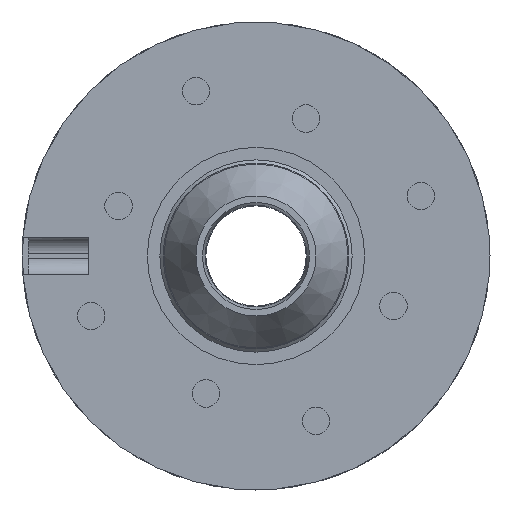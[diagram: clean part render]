
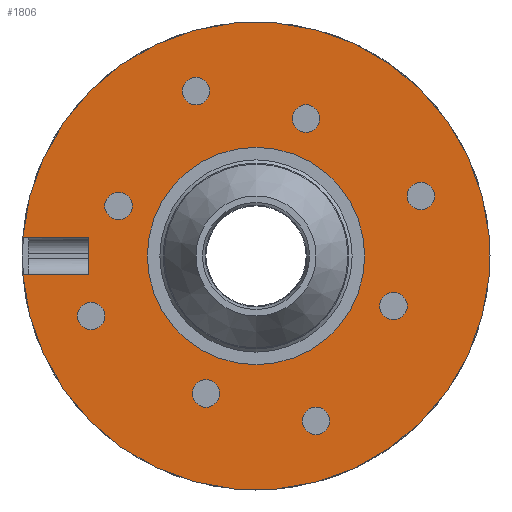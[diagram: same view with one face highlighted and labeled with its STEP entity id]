
A CAD part, left-side view. The second image highlights one B-rep face of the part: STEP entity #1806.
In plain terms, the highlighted planar face has unit normal (-1, 0, 0).
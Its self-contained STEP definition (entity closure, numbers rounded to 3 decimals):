
#69 = DIRECTION ( 'NONE',  ( 0., 0., 1. ) ) ;
#88 = LINE ( 'NONE', #1558, #1643 ) ;
#97 = AXIS2_PLACEMENT_3D ( 'NONE', #1105, #198, #214 ) ;
#102 = CARTESIAN_POINT ( 'NONE',  ( 0., 16.445, 7.635 ) ) ;
#106 = AXIS2_PLACEMENT_3D ( 'NONE', #1991, #1051, #1044 ) ;
#115 = CARTESIAN_POINT ( 'NONE',  ( 0., 20., 2.25 ) ) ;
#124 = EDGE_CURVE ( 'NONE', #1500, #1500, #148, .T. ) ;
#132 = ORIENTED_EDGE ( 'NONE', *, *, #1642, .F. ) ;
#133 = CARTESIAN_POINT ( 'NONE',  ( 0., -5.985, 16.445 ) ) ;
#141 = CARTESIAN_POINT ( 'NONE',  ( 0., 27.909, -2.25 ) ) ;
#148 = CIRCLE ( 'NONE', #231, 1.65 ) ;
#158 = FACE_OUTER_BOUND ( 'NONE', #1010, .T. ) ;
#189 = FACE_BOUND ( 'NONE', #1011, .T. ) ;
#195 = DIRECTION ( 'NONE',  ( 0., 0., 1. ) ) ;
#198 = DIRECTION ( 'NONE',  ( -1., 0., 0. ) ) ;
#214 = DIRECTION ( 'NONE',  ( 0., 0., 1. ) ) ;
#215 = VERTEX_POINT ( 'NONE', #102 ) ;
#216 = DIRECTION ( 'NONE',  ( -1., 0., 0. ) ) ;
#231 = AXIS2_PLACEMENT_3D ( 'NONE', #529, #216, #69 ) ;
#236 = EDGE_LOOP ( 'NONE', ( #652 ) ) ;
#249 = CARTESIAN_POINT ( 'NONE',  ( 0., -19.734, 8.832 ) ) ;
#260 = EDGE_LOOP ( 'NONE', ( #1816 ) ) ;
#295 = DIRECTION ( 'NONE',  ( -1., 0., 0. ) ) ;
#304 = CIRCLE ( 'NONE', #875, 28. ) ;
#312 = FACE_BOUND ( 'NONE', #1969, .T. ) ;
#333 = FACE_BOUND ( 'NONE', #1453, .T. ) ;
#362 = EDGE_CURVE ( 'NONE', #1677, #1677, #1404, .T. ) ;
#399 = ORIENTED_EDGE ( 'NONE', *, *, #1043, .F. ) ;
#403 = EDGE_CURVE ( 'NONE', #618, #618, #1239, .T. ) ;
#415 = EDGE_CURVE ( 'NONE', #1377, #749, #304, .T. ) ;
#422 = DIRECTION ( 'NONE',  ( -1., 0., 0. ) ) ;
#439 = EDGE_CURVE ( 'NONE', #468, #1200, #88, .T. ) ;
#451 = DIRECTION ( 'NONE',  ( 0., 0., 1. ) ) ;
#468 = VERTEX_POINT ( 'NONE', #794 ) ;
#470 = AXIS2_PLACEMENT_3D ( 'NONE', #499, #1378, #1093 ) ;
#499 = CARTESIAN_POINT ( 'NONE',  ( 0., 7.182, 19.734 ) ) ;
#508 = DIRECTION ( 'NONE',  ( -1., 0., 0. ) ) ;
#529 = CARTESIAN_POINT ( 'NONE',  ( 0., 5.985, -16.445 ) ) ;
#551 = DIRECTION ( 'NONE',  ( 0., 1., 0. ) ) ;
#578 = EDGE_CURVE ( 'NONE', #215, #215, #1203, .T. ) ;
#590 = AXIS2_PLACEMENT_3D ( 'NONE', #1427, #1771, #1588 ) ;
#591 = EDGE_LOOP ( 'NONE', ( #1590 ) ) ;
#603 = DIRECTION ( 'NONE',  ( 0., 0., 1. ) ) ;
#618 = VERTEX_POINT ( 'NONE', #846 ) ;
#650 = CIRCLE ( 'NONE', #106, 1.65 ) ;
#652 = ORIENTED_EDGE ( 'NONE', *, *, #124, .F. ) ;
#653 = CARTESIAN_POINT ( 'NONE',  ( 0., 0., 0. ) ) ;
#660 = CARTESIAN_POINT ( 'NONE',  ( 0., 16.445, 5.985 ) ) ;
#668 = CARTESIAN_POINT ( 'NONE',  ( 0., 27.909, 2.25 ) ) ;
#699 = CARTESIAN_POINT ( 'NONE',  ( 0., -7.182, -18.084 ) ) ;
#749 = VERTEX_POINT ( 'NONE', #668 ) ;
#768 = ORIENTED_EDGE ( 'NONE', *, *, #1552, .F. ) ;
#794 = CARTESIAN_POINT ( 'NONE',  ( 0., 20., -2.25 ) ) ;
#845 = ORIENTED_EDGE ( 'NONE', *, *, #362, .F. ) ;
#846 = CARTESIAN_POINT ( 'NONE',  ( 0., 7.182, 21.384 ) ) ;
#849 = EDGE_CURVE ( 'NONE', #1057, #1057, #999, .T. ) ;
#863 = ORIENTED_EDGE ( 'NONE', *, *, #403, .F. ) ;
#872 = VERTEX_POINT ( 'NONE', #249 ) ;
#875 = AXIS2_PLACEMENT_3D ( 'NONE', #653, #1722, #1880 ) ;
#999 = CIRCLE ( 'NONE', #590, 13. ) ;
#1010 = EDGE_LOOP ( 'NONE', ( #399, #1811, #1867, #1820 ) ) ;
#1011 = EDGE_LOOP ( 'NONE', ( #1836 ) ) ;
#1020 = VECTOR ( 'NONE', #1482, 1000. ) ;
#1025 = CARTESIAN_POINT ( 'NONE',  ( 0., 27.909, 2.25 ) ) ;
#1034 = CARTESIAN_POINT ( 'NONE',  ( 0., -7.182, -19.734 ) ) ;
#1037 = AXIS2_PLACEMENT_3D ( 'NONE', #1034, #295, #451 ) ;
#1043 = EDGE_CURVE ( 'NONE', #1200, #749, #1605, .T. ) ;
#1044 = DIRECTION ( 'NONE',  ( 0., 0., 1. ) ) ;
#1051 = DIRECTION ( 'NONE',  ( -1., 0., 0. ) ) ;
#1057 = VERTEX_POINT ( 'NONE', #1614 ) ;
#1079 = VERTEX_POINT ( 'NONE', #1454 ) ;
#1083 = DIRECTION ( 'NONE',  ( 0., 0., 1. ) ) ;
#1092 = EDGE_LOOP ( 'NONE', ( #1426 ) ) ;
#1093 = DIRECTION ( 'NONE',  ( 0., 0., 1. ) ) ;
#1095 = DIRECTION ( 'NONE',  ( 0., 0., 1. ) ) ;
#1105 = CARTESIAN_POINT ( 'NONE',  ( 0., -13., 0. ) ) ;
#1116 = FACE_BOUND ( 'NONE', #591, .T. ) ;
#1138 = FACE_BOUND ( 'NONE', #260, .T. ) ;
#1148 = CARTESIAN_POINT ( 'NONE',  ( 0., -16.445, -4.335 ) ) ;
#1153 = EDGE_CURVE ( 'NONE', #1377, #468, #1328, .T. ) ;
#1167 = CARTESIAN_POINT ( 'NONE',  ( 0., 5.985, -14.795 ) ) ;
#1181 = EDGE_CURVE ( 'NONE', #872, #872, #1580, .T. ) ;
#1200 = VERTEX_POINT ( 'NONE', #115 ) ;
#1203 = CIRCLE ( 'NONE', #1329, 1.65 ) ;
#1236 = DIRECTION ( 'NONE',  ( -1., 0., 0. ) ) ;
#1239 = CIRCLE ( 'NONE', #470, 1.65 ) ;
#1271 = VERTEX_POINT ( 'NONE', #1148 ) ;
#1328 = LINE ( 'NONE', #1647, #1020 ) ;
#1329 = AXIS2_PLACEMENT_3D ( 'NONE', #660, #1236, #1095 ) ;
#1346 = DIRECTION ( 'NONE',  ( -1., 0., 0. ) ) ;
#1377 = VERTEX_POINT ( 'NONE', #141 ) ;
#1378 = DIRECTION ( 'NONE',  ( -1., 0., 0. ) ) ;
#1404 = CIRCLE ( 'NONE', #1629, 1.65 ) ;
#1419 = AXIS2_PLACEMENT_3D ( 'NONE', #133, #1346, #603 ) ;
#1426 = ORIENTED_EDGE ( 'NONE', *, *, #849, .F. ) ;
#1427 = CARTESIAN_POINT ( 'NONE',  ( 0., 0., 0. ) ) ;
#1449 = AXIS2_PLACEMENT_3D ( 'NONE', #1962, #422, #1950 ) ;
#1451 = CIRCLE ( 'NONE', #1037, 1.65 ) ;
#1452 = VECTOR ( 'NONE', #551, 1000. ) ;
#1453 = EDGE_LOOP ( 'NONE', ( #768 ) ) ;
#1454 = CARTESIAN_POINT ( 'NONE',  ( 0., -5.985, 18.095 ) ) ;
#1469 = EDGE_LOOP ( 'NONE', ( #863 ) ) ;
#1477 = FACE_BOUND ( 'NONE', #1092, .T. ) ;
#1482 = DIRECTION ( 'NONE',  ( 0., -1., 0. ) ) ;
#1500 = VERTEX_POINT ( 'NONE', #1167 ) ;
#1523 = FACE_BOUND ( 'NONE', #1469, .T. ) ;
#1552 = EDGE_CURVE ( 'NONE', #1746, #1746, #1451, .T. ) ;
#1558 = CARTESIAN_POINT ( 'NONE',  ( 0., 20., -2.25 ) ) ;
#1567 = CARTESIAN_POINT ( 'NONE',  ( 0., 19.734, -7.182 ) ) ;
#1580 = CIRCLE ( 'NONE', #1449, 1.65 ) ;
#1588 = DIRECTION ( 'NONE',  ( 0., 0., 1. ) ) ;
#1590 = ORIENTED_EDGE ( 'NONE', *, *, #1181, .F. ) ;
#1605 = LINE ( 'NONE', #1025, #1452 ) ;
#1614 = CARTESIAN_POINT ( 'NONE',  ( 0., 0., 13. ) ) ;
#1618 = EDGE_LOOP ( 'NONE', ( #845 ) ) ;
#1629 = AXIS2_PLACEMENT_3D ( 'NONE', #1567, #508, #1083 ) ;
#1642 = EDGE_CURVE ( 'NONE', #1271, #1271, #650, .T. ) ;
#1643 = VECTOR ( 'NONE', #195, 1000. ) ;
#1647 = CARTESIAN_POINT ( 'NONE',  ( 0., 27.909, -2.25 ) ) ;
#1677 = VERTEX_POINT ( 'NONE', #1949 ) ;
#1680 = CIRCLE ( 'NONE', #1419, 1.65 ) ;
#1701 = EDGE_CURVE ( 'NONE', #1079, #1079, #1680, .T. ) ;
#1722 = DIRECTION ( 'NONE',  ( -1., 0., 0. ) ) ;
#1746 = VERTEX_POINT ( 'NONE', #699 ) ;
#1771 = DIRECTION ( 'NONE',  ( -1., 0., 0. ) ) ;
#1806 = ADVANCED_FACE ( 'NONE', ( #1523, #1138, #1116, #312, #333, #1903, #1846, #189, #158, #1477 ), #1926, .T. ) ;
#1811 = ORIENTED_EDGE ( 'NONE', *, *, #439, .F. ) ;
#1816 = ORIENTED_EDGE ( 'NONE', *, *, #1701, .F. ) ;
#1820 = ORIENTED_EDGE ( 'NONE', *, *, #415, .T. ) ;
#1836 = ORIENTED_EDGE ( 'NONE', *, *, #578, .F. ) ;
#1846 = FACE_BOUND ( 'NONE', #1618, .T. ) ;
#1867 = ORIENTED_EDGE ( 'NONE', *, *, #1153, .F. ) ;
#1880 = DIRECTION ( 'NONE',  ( 0., 0., 1. ) ) ;
#1903 = FACE_BOUND ( 'NONE', #236, .T. ) ;
#1926 = PLANE ( 'NONE',  #97 ) ;
#1949 = CARTESIAN_POINT ( 'NONE',  ( 0., 19.734, -5.532 ) ) ;
#1950 = DIRECTION ( 'NONE',  ( 0., 0., 1. ) ) ;
#1962 = CARTESIAN_POINT ( 'NONE',  ( 0., -19.734, 7.182 ) ) ;
#1969 = EDGE_LOOP ( 'NONE', ( #132 ) ) ;
#1991 = CARTESIAN_POINT ( 'NONE',  ( 0., -16.445, -5.985 ) ) ;
